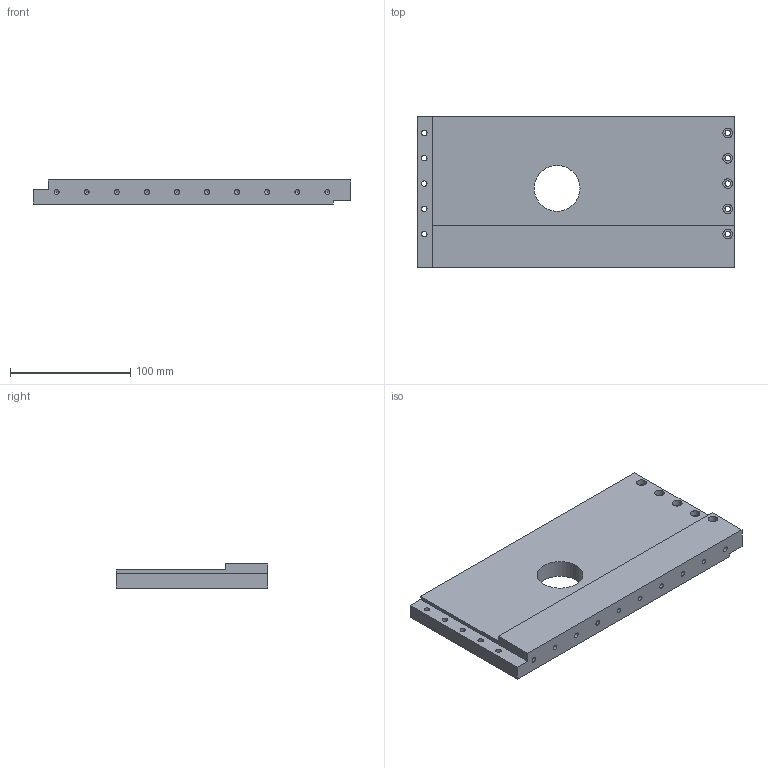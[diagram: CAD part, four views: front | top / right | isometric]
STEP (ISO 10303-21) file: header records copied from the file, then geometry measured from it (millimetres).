
FILE_DESCRIPTION(/* description */ (''),/* implementation_level */ '2;1');
FILE_NAME(/* name */ 'C:\Users\strothej\Documents\ActualDocuments\MicroscopeParts\TwoPhotonSystem\ScanningMechanics\v37\Drawings\Camera_Mount.stp',/* time_stamp */ '2017-11-18T00:47:23-08:00',/* author */ ('strothej'),/* organization */ (''),/* preprocessor_version */ 'ST-DEVELOPER v16.1',/* originating_system */ 'Autodesk Inventor 2016',/* authorisation */ '');
FILE_SCHEMA (('AUTOMOTIVE_DESIGN { 1 0 10303 214 3 1 1 }'));
Length unit declared in the file: millimetre
Products named in the file (1): Camera_Mount
Bounding box: 264 x 126 x 20 mm (x, y, z)
Volume: 509490.4 mm3; surface area: 84917.4 mm2
Topology: 1 solids, 1 shells, 79 faces, 183 edges, 116 vertices
Faces by surface type: cylinder 39, plane 22, cone 18
Full cylindrical faces by diameter (mm): 2.013 x8, 4.134 x10, 4.5 x10, 8 x10, 38.1 x1
Entity records: 1872 total; most frequent: DIRECTION 346, CARTESIAN_POINT 286, ORIENTED_EDGE 216, EDGE_LOOP 168, AXIS2_PLACEMENT_3D 158, EDGE_CURVE 108, VERTEX_POINT 98, FACE_BOUND 89
